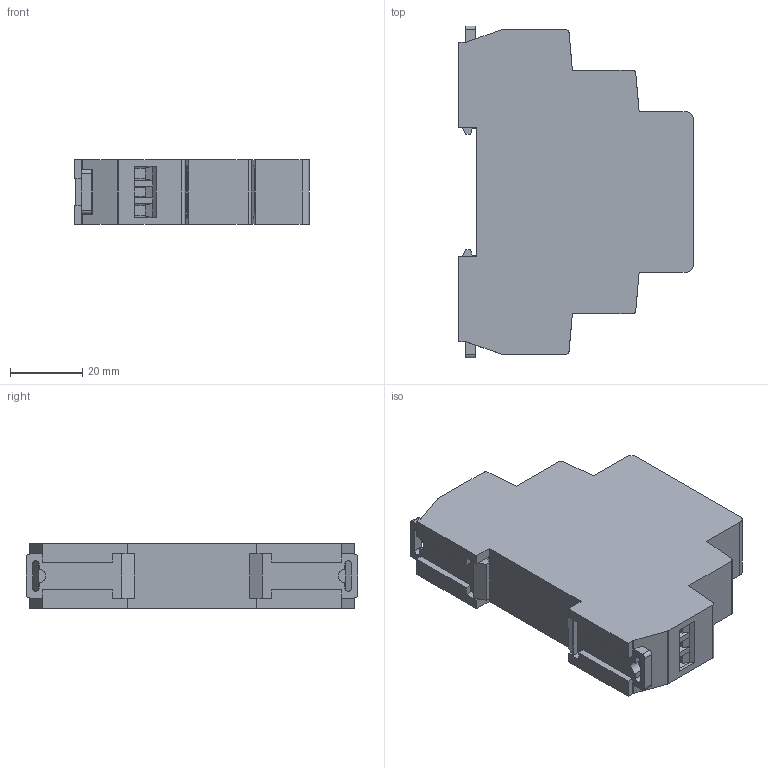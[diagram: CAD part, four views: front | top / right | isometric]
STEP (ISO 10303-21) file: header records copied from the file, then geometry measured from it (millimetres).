
FILE_DESCRIPTION (( 'STEP AP203' ), '1' );
FILE_NAME ('Èìïóëüñíîå ðåëå RP-Ì.STEP', '2021-11-25T20:40:37', ( '' ), ( '' ), 'SwSTEP 2.0', 'SolidWorks 2017', '' );
FILE_SCHEMA (( 'CONFIG_CONTROL_DESIGN' ));
Length unit declared in the file: millimetre
Products named in the file (1): Èìïóëüñíîå ðåëå RP-Ì
Bounding box: 65 x 92 x 18 mm (x, y, z)
Volume: 79860.6 mm3; surface area: 18166.6 mm2
Topology: 6 solids, 6 shells, 316 faces, 824 edges, 544 vertices
Faces by surface type: plane 232, cylinder 84
Entity records: 9695 total; most frequent: CARTESIAN_POINT 1721, ORIENTED_EDGE 1648, DIRECTION 1602, EDGE_CURVE 824, LINE 656, VECTOR 656, VERTEX_POINT 544, AXIS2_PLACEMENT_3D 473
